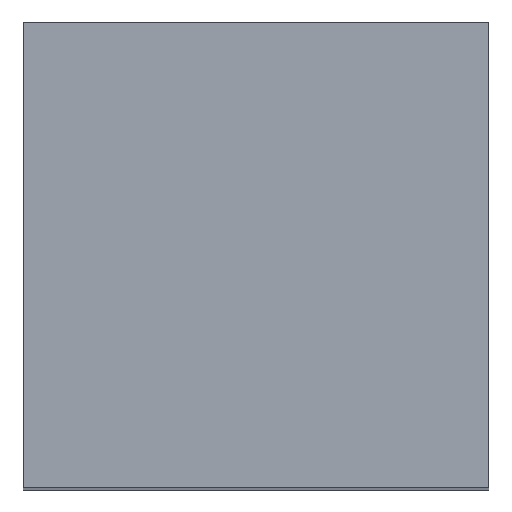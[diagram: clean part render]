
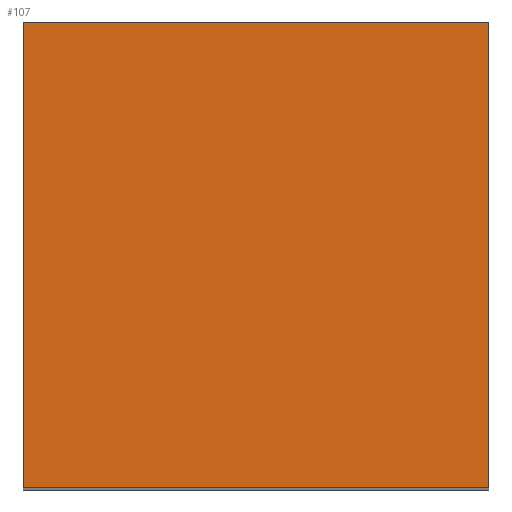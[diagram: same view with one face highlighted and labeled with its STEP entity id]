
A CAD part, top view. The second image highlights one B-rep face of the part: STEP entity #107.
In plain terms, the highlighted planar face has unit normal (0, 0, 1).
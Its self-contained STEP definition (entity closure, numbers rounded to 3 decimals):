
#107=ADVANCED_FACE('',(#197),#199,.T.);
#197=FACE_BOUND('',#198,.T.);
#198=EDGE_LOOP('',(#253,#254,#255,#256));
#199=PLANE('',#200);
#200=AXIS2_PLACEMENT_3D('',#201,#202,#203);
#201=CARTESIAN_POINT('',(0.,0.,25.));
#202=DIRECTION('',(0.,0.,1.));
#203=DIRECTION('',(-1.,0.,0.));
#253=ORIENTED_EDGE('',*,*,#273,.T.);
#254=ORIENTED_EDGE('',*,*,#282,.T.);
#255=ORIENTED_EDGE('',*,*,#267,.T.);
#256=ORIENTED_EDGE('',*,*,#281,.T.);
#267=EDGE_CURVE('',#288,#286,#289,.T.);
#273=EDGE_CURVE('',#300,#298,#301,.T.);
#281=EDGE_CURVE('',#286,#300,#313,.T.);
#282=EDGE_CURVE('',#298,#288,#314,.T.);
#286=VERTEX_POINT('',#320);
#288=VERTEX_POINT('',#324);
#289=LINE('',#325,#326);
#298=VERTEX_POINT('',#346);
#300=VERTEX_POINT('',#350);
#301=LINE('',#351,#352);
#313=LINE('',#383,#384);
#314=LINE('',#386,#387);
#320=CARTESIAN_POINT('',(4.,4.,25.));
#324=CARTESIAN_POINT('',(4.,-4.,25.));
#325=CARTESIAN_POINT('',(4.,-4.,25.));
#326=VECTOR('',#327,1.);
#327=DIRECTION('',(0.,1.,0.));
#346=CARTESIAN_POINT('',(-4.,-4.,25.));
#350=CARTESIAN_POINT('',(-4.,4.,25.));
#351=CARTESIAN_POINT('',(-4.,4.,25.));
#352=VECTOR('',#353,1.);
#353=DIRECTION('',(0.,-1.,0.));
#383=CARTESIAN_POINT('',(4.,4.,25.));
#384=VECTOR('',#385,1.);
#385=DIRECTION('',(-1.,0.,0.));
#386=CARTESIAN_POINT('',(-4.,-4.,25.));
#387=VECTOR('',#388,1.);
#388=DIRECTION('',(1.,0.,0.));
